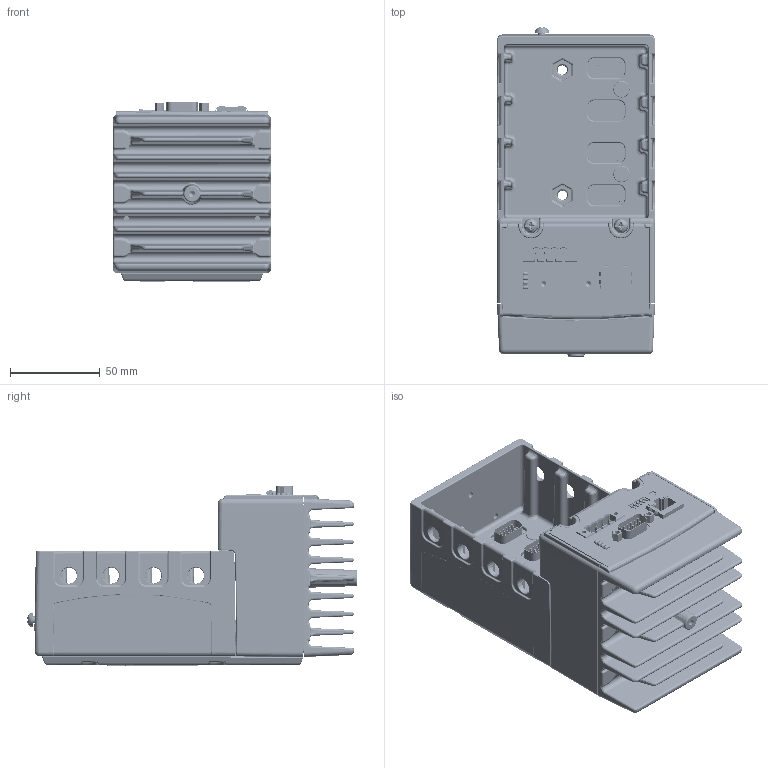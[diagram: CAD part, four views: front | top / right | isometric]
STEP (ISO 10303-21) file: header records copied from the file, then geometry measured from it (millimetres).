
FILE_DESCRIPTION((''),'2;1');
FILE_NAME('CU_CRIO-9012-14_CHAS-911X_4','2009-02-20T',('dcrowder'),(''),'PRO/ENGINEER BY PARAMETRIC TECHNOLOGY CORPORATION, 2006080','PRO/ENGINEER BY PARAMETRIC TECHNOLOGY CORPORATION, 2006080','');
FILE_SCHEMA(('CONFIG_CONTROL_DESIGN'));
Products named in the file (1): CU_CRIO-9012-14_CHAS-911X_4
Bounding box: 88.12 x 183.86 x 99.97 mm (x, y, z)
Volume: 336037.3 mm3; surface area: 215329.6 mm2
Topology: 80 solids, 80 shells, 5910 faces, 13638 edges, 8090 vertices
Faces by surface type: plane 2111, cylinder 2008, bspline 1031, torus 292, cone 238, sphere 230
Entity records: 255119 total; most frequent: CARTESIAN_POINT 128260, ORIENTED_EDGE 27048, DIRECTION 24917, EDGE_CURVE 13524, AXIS2_PLACEMENT_3D 9195, VERTEX_POINT 8299, VECTOR 6527, LINE 6527
